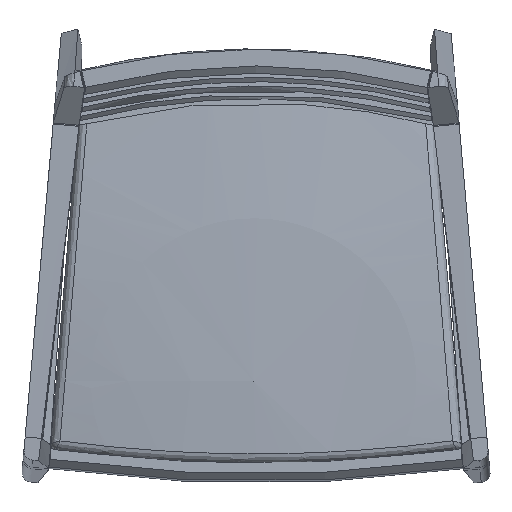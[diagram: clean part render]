
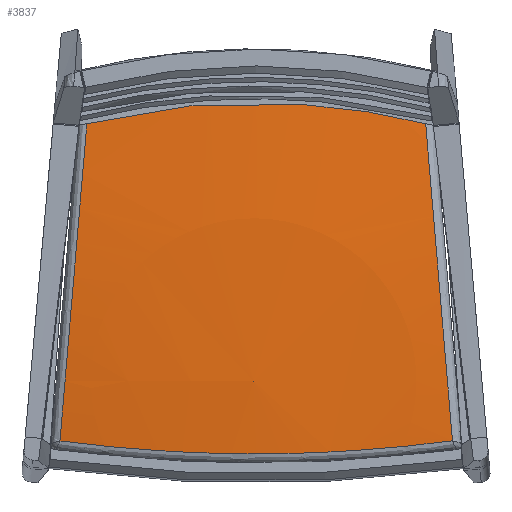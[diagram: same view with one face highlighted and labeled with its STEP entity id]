
A CAD part, top view. The second image highlights one B-rep face of the part: STEP entity #3837.
In plain terms, the highlighted spherical face has radius 3039.64 mm.
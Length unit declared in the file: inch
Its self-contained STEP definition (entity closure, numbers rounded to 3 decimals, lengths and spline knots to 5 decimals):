
#134=CIRCLE('',#4115,119.67089);
#156=SPHERICAL_SURFACE('',#4114,119.67089);
#257=FACE_OUTER_BOUND('',#502,.T.);
#502=EDGE_LOOP('',(#2587,#2588,#2589,#2590,#2591,#2592,#2593,#2594,#2595));
#1342=B_SPLINE_CURVE_WITH_KNOTS('',3,(#5205,#5206,#5207,#5208,#5209),
 .UNSPECIFIED.,.F.,.F.,(4,1,4),(0.43653,9.22132,10.57898),
 .UNSPECIFIED.);
#1343=B_SPLINE_CURVE_WITH_KNOTS('',3,(#5211,#5212,#5213,#5214),
 .UNSPECIFIED.,.F.,.F.,(4,4),(0.32272,17.71626),
 .UNSPECIFIED.);
#1344=B_SPLINE_CURVE_WITH_KNOTS('',3,(#5216,#5217,#5218,#5219,#5220,#5221,
#5222),.UNSPECIFIED.,.F.,.F.,(4,3,4),(-0.00002,4.40806,
8.72227),.UNSPECIFIED.);
#1345=B_SPLINE_CURVE_WITH_KNOTS('',3,(#5224,#5225,#5226,#5227),
 .UNSPECIFIED.,.F.,.F.,(4,4),(0.33312,9.05583),
 .UNSPECIFIED.);
#1346=B_SPLINE_CURVE_WITH_KNOTS('',3,(#5229,#5230,#5231,#5232),
 .UNSPECIFIED.,.F.,.F.,(4,4),(3.53439,17.84243),
 .UNSPECIFIED.);
#1347=B_SPLINE_CURVE_WITH_KNOTS('',3,(#5236,#5237,#5238,#5239),
 .UNSPECIFIED.,.F.,.F.,(4,4),(0.4418,3.53439),
 .UNSPECIFIED.);
#1348=B_SPLINE_CURVE_WITH_KNOTS('',3,(#5240,#5241,#5242,#5243,#5244),
 .UNSPECIFIED.,.F.,.F.,(4,1,4),(10.57898,16.30421,20.7211),
 .UNSPECIFIED.);
#1590=VERTEX_POINT('',#5203);
#1591=VERTEX_POINT('',#5204);
#1592=VERTEX_POINT('',#5210);
#1593=VERTEX_POINT('',#5215);
#1594=VERTEX_POINT('',#5223);
#1595=VERTEX_POINT('',#5228);
#1596=VERTEX_POINT('',#5233);
#1597=VERTEX_POINT('',#5235);
#1985=EDGE_CURVE('',#1590,#1591,#1342,.T.);
#1986=EDGE_CURVE('',#1592,#1590,#1343,.T.);
#1987=EDGE_CURVE('',#1593,#1592,#1344,.T.);
#1988=EDGE_CURVE('',#1594,#1593,#1345,.T.);
#1989=EDGE_CURVE('',#1595,#1594,#1346,.T.);
#1990=EDGE_CURVE('',#1596,#1595,#134,.T.);
#1991=EDGE_CURVE('',#1597,#1595,#1347,.T.);
#1992=EDGE_CURVE('',#1591,#1597,#1348,.T.);
#2587=ORIENTED_EDGE('',*,*,#1985,.F.);
#2588=ORIENTED_EDGE('',*,*,#1986,.F.);
#2589=ORIENTED_EDGE('',*,*,#1987,.F.);
#2590=ORIENTED_EDGE('',*,*,#1988,.F.);
#2591=ORIENTED_EDGE('',*,*,#1989,.F.);
#2592=ORIENTED_EDGE('',*,*,#1990,.F.);
#2593=ORIENTED_EDGE('',*,*,#1990,.T.);
#2594=ORIENTED_EDGE('',*,*,#1991,.F.);
#2595=ORIENTED_EDGE('',*,*,#1992,.F.);
#3837=ADVANCED_FACE('',(#257),#156,.T.);
#4114=AXIS2_PLACEMENT_3D('',#5202,#4380,#4381);
#4115=AXIS2_PLACEMENT_3D('',#5234,#4382,#4383);
#4380=DIRECTION('center_axis',(0.,0.,1.));
#4381=DIRECTION('ref_axis',(1.,0.,0.));
#4382=DIRECTION('center_axis',(0.,-1.,0.));
#4383=DIRECTION('ref_axis',(-1.,0.,0.));
#5202=CARTESIAN_POINT('Origin',(-0.13223,5.22227,-102.05401));
#5203=CARTESIAN_POINT('',(10.14503,2.13214,17.13472));
#5204=CARTESIAN_POINT('',(0.0012,1.46195,17.55772));
#5205=CARTESIAN_POINT('Ctrl Pts',(10.14498,2.13225,17.13472));
#5206=CARTESIAN_POINT('Ctrl Pts',(7.23979,1.74701,17.37528));
#5207=CARTESIAN_POINT('Ctrl Pts',(3.85054,1.49254,17.53506));
#5208=CARTESIAN_POINT('Ctrl Pts',(0.45564,1.46203,17.55722));
#5209=CARTESIAN_POINT('Ctrl Pts',(0.0012,1.46195,17.55772));
#5210=CARTESIAN_POINT('',(8.67758,19.50737,16.4342));
#5211=CARTESIAN_POINT('Ctrl Pts',(8.67722,19.5068,16.43426));
#5212=CARTESIAN_POINT('Ctrl Pts',(9.16515,13.74277,17.09301));
#5213=CARTESIAN_POINT('Ctrl Pts',(9.65651,7.93059,17.32733));
#5214=CARTESIAN_POINT('Ctrl Pts',(10.14539,2.13228,17.1347));
#5215=CARTESIAN_POINT('',(0.00373,20.54952,16.6312));
#5216=CARTESIAN_POINT('Ctrl Pts',(0.00373,20.54952,
16.6312));
#5217=CARTESIAN_POINT('Ctrl Pts',(1.47928,20.54944,16.62958));
#5218=CARTESIAN_POINT('Ctrl Pts',(2.95473,20.45977,16.61184));
#5219=CARTESIAN_POINT('Ctrl Pts',(4.41919,20.28184,16.57824));
#5220=CARTESIAN_POINT('Ctrl Pts',(5.85248,20.1077,16.54536));
#5221=CARTESIAN_POINT('Ctrl Pts',(7.27525,19.84902,16.49728));
#5222=CARTESIAN_POINT('Ctrl Pts',(8.67727,19.50701,16.43423));
#5223=CARTESIAN_POINT('',(-8.67001,19.51017,16.45375));
#5224=CARTESIAN_POINT('Ctrl Pts',(-8.66976,19.51022,16.45375));
#5225=CARTESIAN_POINT('Ctrl Pts',(-5.83548,20.20056,16.57478));
#5226=CARTESIAN_POINT('Ctrl Pts',(-2.91592,20.55046,16.63455));
#5227=CARTESIAN_POINT('Ctrl Pts',(0.00373,20.54952,
16.6312));
#5228=CARTESIAN_POINT('',(-9.88179,5.22227,17.21909));
#5229=CARTESIAN_POINT('Ctrl Pts',(-9.88179,5.22227,17.21909));
#5230=CARTESIAN_POINT('Ctrl Pts',(-9.47799,9.99454,17.25206));
#5231=CARTESIAN_POINT('Ctrl Pts',(-9.07318,14.7686,16.99647));
#5232=CARTESIAN_POINT('Ctrl Pts',(-8.67024,19.50999,16.45374));
#5233=CARTESIAN_POINT('',(-0.13223,5.22227,17.61688));
#5234=CARTESIAN_POINT('Origin',(-0.13223,5.22227,-102.05401));
#5235=CARTESIAN_POINT('',(-10.14345,2.12839,17.15725));
#5236=CARTESIAN_POINT('Ctrl Pts',(-10.14346,2.12839,17.15726));
#5237=CARTESIAN_POINT('Ctrl Pts',(-10.0563,3.15937,17.19136));
#5238=CARTESIAN_POINT('Ctrl Pts',(-9.96907,4.19078,17.21197));
#5239=CARTESIAN_POINT('Ctrl Pts',(-9.88179,5.22227,17.21909));
#5240=CARTESIAN_POINT('Ctrl Pts',(0.0012,1.46195,17.55772));
#5241=CARTESIAN_POINT('Ctrl Pts',(-1.91517,1.46163,17.55983));
#5242=CARTESIAN_POINT('Ctrl Pts',(-5.31011,1.58731,17.48595));
#5243=CARTESIAN_POINT('Ctrl Pts',(-8.68236,1.93543,17.27494));
#5244=CARTESIAN_POINT('Ctrl Pts',(-10.14345,2.12839,17.15725));
